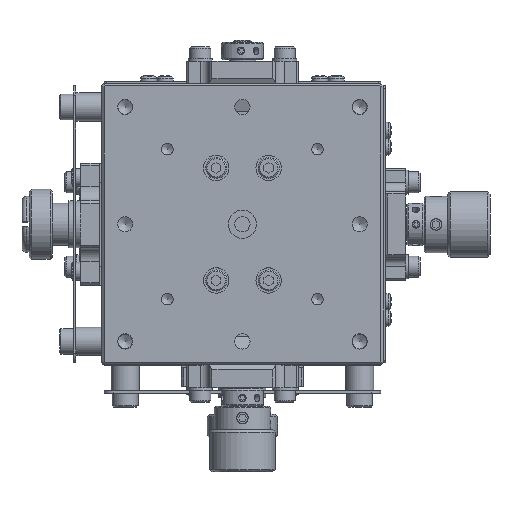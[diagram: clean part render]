
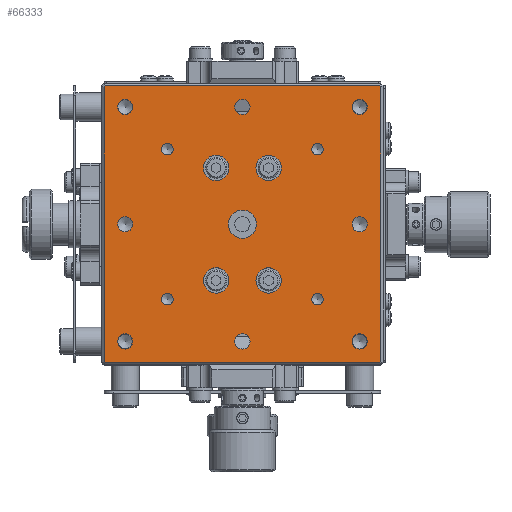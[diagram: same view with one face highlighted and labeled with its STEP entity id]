
A CAD part, top view. The second image highlights one B-rep face of the part: STEP entity #66333.
In plain terms, the highlighted planar face has unit normal (0, 0, 1).
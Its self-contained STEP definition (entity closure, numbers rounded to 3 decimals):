
#64838=CARTESIAN_POINT('',(3.,0.0,-60.0));
#64839=VERTEX_POINT('',#64838);
#64840=CARTESIAN_POINT('',(0.0,0.0,-60.0));
#64841=DIRECTION('',(0.0,0.0,-1.0));
#64842=DIRECTION('',(1.0,0.0,0.0));
#64843=AXIS2_PLACEMENT_3D('',#64840,#64841,#64842);
#64844=CIRCLE('',#64843,3.);
#64845=EDGE_CURVE('',#64839,#64839,#64844,.T.);
#64963=CARTESIAN_POINT('',(1.621,-25.0,-60.0));
#64964=VERTEX_POINT('',#64963);
#64965=CARTESIAN_POINT('',(0.0,-25.0,-60.0));
#64966=DIRECTION('',(0.0,0.0,-1.0));
#64967=DIRECTION('',(1.0,0.0,0.0));
#64968=AXIS2_PLACEMENT_3D('',#64965,#64966,#64967);
#64969=CIRCLE('',#64968,1.621);
#64970=EDGE_CURVE('',#64964,#64964,#64969,.T.);
#65004=CARTESIAN_POINT('',(1.621,25.0,-60.0));
#65005=VERTEX_POINT('',#65004);
#65006=CARTESIAN_POINT('',(0.0,25.0,-60.0));
#65007=DIRECTION('',(0.0,0.0,-1.0));
#65008=DIRECTION('',(1.0,0.0,0.0));
#65009=AXIS2_PLACEMENT_3D('',#65006,#65007,#65008);
#65010=CIRCLE('',#65009,1.621);
#65011=EDGE_CURVE('',#65005,#65005,#65010,.T.);
#65042=CARTESIAN_POINT('',(-23.379,0.0,-60.0));
#65043=VERTEX_POINT('',#65042);
#65044=CARTESIAN_POINT('',(-25.0,0.0,-60.0));
#65045=DIRECTION('',(0.0,0.0,-1.0));
#65046=DIRECTION('',(1.0,0.0,0.0));
#65047=AXIS2_PLACEMENT_3D('',#65044,#65045,#65046);
#65048=CIRCLE('',#65047,1.621);
#65049=EDGE_CURVE('',#65043,#65043,#65048,.T.);
#65121=CARTESIAN_POINT('',(26.621,0.0,-60.0));
#65122=VERTEX_POINT('',#65121);
#65123=CARTESIAN_POINT('',(25.0,0.0,-60.0));
#65124=DIRECTION('',(0.0,0.0,-1.0));
#65125=DIRECTION('',(1.0,0.0,0.0));
#65126=AXIS2_PLACEMENT_3D('',#65123,#65124,#65125);
#65127=CIRCLE('',#65126,1.621);
#65128=EDGE_CURVE('',#65122,#65122,#65127,.T.);
#65203=CARTESIAN_POINT('',(26.621,25.0,-60.0));
#65204=VERTEX_POINT('',#65203);
#65205=CARTESIAN_POINT('',(25.0,25.0,-60.0));
#65206=DIRECTION('',(0.0,0.0,-1.0));
#65207=DIRECTION('',(1.0,0.0,0.0));
#65208=AXIS2_PLACEMENT_3D('',#65205,#65206,#65207);
#65209=CIRCLE('',#65208,1.621);
#65210=EDGE_CURVE('',#65204,#65204,#65209,.T.);
#65285=CARTESIAN_POINT('',(-25.0,26.621,-60.0));
#65286=VERTEX_POINT('',#65285);
#65287=CARTESIAN_POINT('',(-25.0,25.0,-60.0));
#65288=DIRECTION('',(0.0,0.0,-1.0));
#65289=DIRECTION('',(0.0,1.0,0.0));
#65290=AXIS2_PLACEMENT_3D('',#65287,#65288,#65289);
#65291=CIRCLE('',#65290,1.621);
#65292=EDGE_CURVE('',#65286,#65286,#65291,.T.);
#65367=CARTESIAN_POINT('',(-26.621,-25.0,-60.0));
#65368=VERTEX_POINT('',#65367);
#65369=CARTESIAN_POINT('',(-25.0,-25.0,-60.0));
#65370=DIRECTION('',(0.0,0.0,-1.0));
#65371=DIRECTION('',(-1.0,0.0,0.0));
#65372=AXIS2_PLACEMENT_3D('',#65369,#65370,#65371);
#65373=CIRCLE('',#65372,1.621);
#65374=EDGE_CURVE('',#65368,#65368,#65373,.T.);
#65449=CARTESIAN_POINT('',(25.,-26.621,-60.0));
#65450=VERTEX_POINT('',#65449);
#65451=CARTESIAN_POINT('',(25.,-25.,-60.0));
#65452=DIRECTION('',(0.0,0.0,-1.0));
#65453=DIRECTION('',(0.0,-1.0,0.0));
#65454=AXIS2_PLACEMENT_3D('',#65451,#65452,#65453);
#65455=CIRCLE('',#65454,1.621);
#65456=EDGE_CURVE('',#65450,#65450,#65455,.T.);
#65528=CARTESIAN_POINT('',(8.3,12.,-60.0));
#65529=VERTEX_POINT('',#65528);
#65530=CARTESIAN_POINT('',(5.6,12.,-60.0));
#65531=DIRECTION('',(0.0,0.0,-1.0));
#65532=DIRECTION('',(1.0,0.0,0.0));
#65533=AXIS2_PLACEMENT_3D('',#65530,#65531,#65532);
#65534=CIRCLE('',#65533,2.7);
#65535=EDGE_CURVE('',#65529,#65529,#65534,.T.);
#65597=CARTESIAN_POINT('',(-2.9,12.,-60.0));
#65598=VERTEX_POINT('',#65597);
#65599=CARTESIAN_POINT('',(-5.6,12.,-60.0));
#65600=DIRECTION('',(0.0,0.0,-1.0));
#65601=DIRECTION('',(1.0,0.0,0.0));
#65602=AXIS2_PLACEMENT_3D('',#65599,#65600,#65601);
#65603=CIRCLE('',#65602,2.7);
#65604=EDGE_CURVE('',#65598,#65598,#65603,.T.);
#65678=CARTESIAN_POINT('',(-8.3,-12.,-60.0));
#65679=VERTEX_POINT('',#65678);
#65680=CARTESIAN_POINT('',(-5.6,-12.,-60.0));
#65681=DIRECTION('',(0.0,0.0,-1.0));
#65682=DIRECTION('',(-1.0,0.0,0.0));
#65683=AXIS2_PLACEMENT_3D('',#65680,#65681,#65682);
#65684=CIRCLE('',#65683,2.7);
#65685=EDGE_CURVE('',#65679,#65679,#65684,.T.);
#65719=CARTESIAN_POINT('',(2.9,-12.,-60.0));
#65720=VERTEX_POINT('',#65719);
#65721=CARTESIAN_POINT('',(5.6,-12.,-60.0));
#65722=DIRECTION('',(0.0,0.0,-1.0));
#65723=DIRECTION('',(-1.0,0.0,0.0));
#65724=AXIS2_PLACEMENT_3D('',#65721,#65722,#65723);
#65725=CIRCLE('',#65724,2.7);
#65726=EDGE_CURVE('',#65720,#65720,#65725,.T.);
#65788=CARTESIAN_POINT('',(-14.771,-16.,-60.0));
#65789=VERTEX_POINT('',#65788);
#65790=CARTESIAN_POINT('',(-16.0,-16.,-60.0));
#65791=DIRECTION('',(0.0,0.0,-1.0));
#65792=DIRECTION('',(1.0,0.0,0.0));
#65793=AXIS2_PLACEMENT_3D('',#65790,#65791,#65792);
#65794=CIRCLE('',#65793,1.23);
#65795=EDGE_CURVE('',#65789,#65789,#65794,.T.);
#65867=CARTESIAN_POINT('',(16.,-14.771,-60.0));
#65868=VERTEX_POINT('',#65867);
#65869=CARTESIAN_POINT('',(16.,-16.0,-60.0));
#65870=DIRECTION('',(0.0,0.0,-1.0));
#65871=DIRECTION('',(0.0,1.0,0.0));
#65872=AXIS2_PLACEMENT_3D('',#65869,#65870,#65871);
#65873=CIRCLE('',#65872,1.23);
#65874=EDGE_CURVE('',#65868,#65868,#65873,.T.);
#65946=CARTESIAN_POINT('',(14.771,16.,-60.0));
#65947=VERTEX_POINT('',#65946);
#65948=CARTESIAN_POINT('',(16.0,16.,-60.0));
#65949=DIRECTION('',(0.0,0.0,-1.0));
#65950=DIRECTION('',(-1.0,0.0,0.0));
#65951=AXIS2_PLACEMENT_3D('',#65948,#65949,#65950);
#65952=CIRCLE('',#65951,1.23);
#65953=EDGE_CURVE('',#65947,#65947,#65952,.T.);
#66025=CARTESIAN_POINT('',(-16.,14.771,-60.0));
#66026=VERTEX_POINT('',#66025);
#66027=CARTESIAN_POINT('',(-16.,16.,-60.0));
#66028=DIRECTION('',(0.0,0.0,-1.0));
#66029=DIRECTION('',(0.0,-1.0,0.0));
#66030=AXIS2_PLACEMENT_3D('',#66027,#66028,#66029);
#66031=CIRCLE('',#66030,1.23);
#66032=EDGE_CURVE('',#66026,#66026,#66031,.T.);
#66211=CARTESIAN_POINT('',(0.0,30.0,-60.0));
#66212=DIRECTION('',(0.0,0.0,1.0));
#66213=DIRECTION('',(1.0,0.0,0.0));
#66214=AXIS2_PLACEMENT_3D('',#66211,#66212,#66213);
#66215=PLANE('',#66214);
#66216=CARTESIAN_POINT('',(29.293,29.5,-60.0));
#66217=VERTEX_POINT('',#66216);
#66218=CARTESIAN_POINT('',(29.5,29.293,-60.0));
#66219=VERTEX_POINT('',#66218);
#66220=CARTESIAN_POINT('',(29.293,29.5,-60.0));
#66221=DIRECTION('',(0.707,-0.707,0.0));
#66222=VECTOR('',#66221,0.293);
#66223=LINE('',#66220,#66222);
#66224=EDGE_CURVE('',#66217,#66219,#66223,.T.);
#66225=ORIENTED_EDGE('',*,*,#66224,.F.);
#66226=CARTESIAN_POINT('',(-29.293,29.5,-60.0));
#66227=VERTEX_POINT('',#66226);
#66228=CARTESIAN_POINT('',(-29.293,29.5,-60.0));
#66229=DIRECTION('',(1.0,0.0,0.0));
#66230=VECTOR('',#66229,58.586);
#66231=LINE('',#66228,#66230);
#66232=EDGE_CURVE('',#66227,#66217,#66231,.T.);
#66233=ORIENTED_EDGE('',*,*,#66232,.F.);
#66234=CARTESIAN_POINT('',(-29.5,29.293,-60.0));
#66235=VERTEX_POINT('',#66234);
#66236=CARTESIAN_POINT('',(-29.5,29.293,-60.0));
#66237=DIRECTION('',(0.707,0.707,0.0));
#66238=VECTOR('',#66237,0.293);
#66239=LINE('',#66236,#66238);
#66240=EDGE_CURVE('',#66235,#66227,#66239,.T.);
#66241=ORIENTED_EDGE('',*,*,#66240,.F.);
#66242=CARTESIAN_POINT('',(-29.5,-29.293,-60.0));
#66243=VERTEX_POINT('',#66242);
#66244=CARTESIAN_POINT('',(-29.5,-29.293,-60.0));
#66245=DIRECTION('',(0.0,1.0,0.0));
#66246=VECTOR('',#66245,58.586);
#66247=LINE('',#66244,#66246);
#66248=EDGE_CURVE('',#66243,#66235,#66247,.T.);
#66249=ORIENTED_EDGE('',*,*,#66248,.F.);
#66250=CARTESIAN_POINT('',(-29.293,-29.5,-60.0));
#66251=VERTEX_POINT('',#66250);
#66252=CARTESIAN_POINT('',(-29.293,-29.5,-60.0));
#66253=DIRECTION('',(-0.707,0.707,0.0));
#66254=VECTOR('',#66253,0.293);
#66255=LINE('',#66252,#66254);
#66256=EDGE_CURVE('',#66251,#66243,#66255,.T.);
#66257=ORIENTED_EDGE('',*,*,#66256,.F.);
#66258=CARTESIAN_POINT('',(29.293,-29.5,-60.0));
#66259=VERTEX_POINT('',#66258);
#66260=CARTESIAN_POINT('',(29.293,-29.5,-60.0));
#66261=DIRECTION('',(-1.0,0.0,0.0));
#66262=VECTOR('',#66261,58.586);
#66263=LINE('',#66260,#66262);
#66264=EDGE_CURVE('',#66259,#66251,#66263,.T.);
#66265=ORIENTED_EDGE('',*,*,#66264,.F.);
#66266=CARTESIAN_POINT('',(29.5,-29.293,-60.0));
#66267=VERTEX_POINT('',#66266);
#66268=CARTESIAN_POINT('',(29.5,-29.293,-60.0));
#66269=DIRECTION('',(-0.707,-0.707,0.0));
#66270=VECTOR('',#66269,0.293);
#66271=LINE('',#66268,#66270);
#66272=EDGE_CURVE('',#66267,#66259,#66271,.T.);
#66273=ORIENTED_EDGE('',*,*,#66272,.F.);
#66274=CARTESIAN_POINT('',(29.5,29.293,-60.0));
#66275=DIRECTION('',(0.0,-1.0,0.0));
#66276=VECTOR('',#66275,58.586);
#66277=LINE('',#66274,#66276);
#66278=EDGE_CURVE('',#66219,#66267,#66277,.T.);
#66279=ORIENTED_EDGE('',*,*,#66278,.F.);
#66280=EDGE_LOOP('',(#66225,#66233,#66241,#66249,#66257,#66265,#66273,#66279));
#66281=FACE_OUTER_BOUND('',#66280,.T.);
#66282=ORIENTED_EDGE('',*,*,#66032,.T.);
#66283=EDGE_LOOP('',(#66282));
#66284=FACE_BOUND('',#66283,.T.);
#66285=ORIENTED_EDGE('',*,*,#65953,.T.);
#66286=EDGE_LOOP('',(#66285));
#66287=FACE_BOUND('',#66286,.T.);
#66288=ORIENTED_EDGE('',*,*,#65874,.T.);
#66289=EDGE_LOOP('',(#66288));
#66290=FACE_BOUND('',#66289,.T.);
#66291=ORIENTED_EDGE('',*,*,#65795,.T.);
#66292=EDGE_LOOP('',(#66291));
#66293=FACE_BOUND('',#66292,.T.);
#66294=ORIENTED_EDGE('',*,*,#65726,.T.);
#66295=EDGE_LOOP('',(#66294));
#66296=FACE_BOUND('',#66295,.T.);
#66297=ORIENTED_EDGE('',*,*,#65685,.T.);
#66298=EDGE_LOOP('',(#66297));
#66299=FACE_BOUND('',#66298,.T.);
#66300=ORIENTED_EDGE('',*,*,#65604,.T.);
#66301=EDGE_LOOP('',(#66300));
#66302=FACE_BOUND('',#66301,.T.);
#66303=ORIENTED_EDGE('',*,*,#65535,.T.);
#66304=EDGE_LOOP('',(#66303));
#66305=FACE_BOUND('',#66304,.T.);
#66306=ORIENTED_EDGE('',*,*,#65456,.T.);
#66307=EDGE_LOOP('',(#66306));
#66308=FACE_BOUND('',#66307,.T.);
#66309=ORIENTED_EDGE('',*,*,#65374,.T.);
#66310=EDGE_LOOP('',(#66309));
#66311=FACE_BOUND('',#66310,.T.);
#66312=ORIENTED_EDGE('',*,*,#65292,.T.);
#66313=EDGE_LOOP('',(#66312));
#66314=FACE_BOUND('',#66313,.T.);
#66315=ORIENTED_EDGE('',*,*,#65210,.T.);
#66316=EDGE_LOOP('',(#66315));
#66317=FACE_BOUND('',#66316,.T.);
#66318=ORIENTED_EDGE('',*,*,#65128,.T.);
#66319=EDGE_LOOP('',(#66318));
#66320=FACE_BOUND('',#66319,.T.);
#66321=ORIENTED_EDGE('',*,*,#65049,.T.);
#66322=EDGE_LOOP('',(#66321));
#66323=FACE_BOUND('',#66322,.T.);
#66324=ORIENTED_EDGE('',*,*,#65011,.T.);
#66325=EDGE_LOOP('',(#66324));
#66326=FACE_BOUND('',#66325,.T.);
#66327=ORIENTED_EDGE('',*,*,#64970,.T.);
#66328=EDGE_LOOP('',(#66327));
#66329=FACE_BOUND('',#66328,.T.);
#66330=ORIENTED_EDGE('',*,*,#64845,.T.);
#66331=EDGE_LOOP('',(#66330));
#66332=FACE_BOUND('',#66331,.T.);
#66333=ADVANCED_FACE('',(#66281,#66284,#66287,#66290,#66293,#66296,#66299,#66302,#66305,#66308,#66311,#66314,#66317,#66320,#66323,#66326,#66329,#66332),#66215,.T.);
